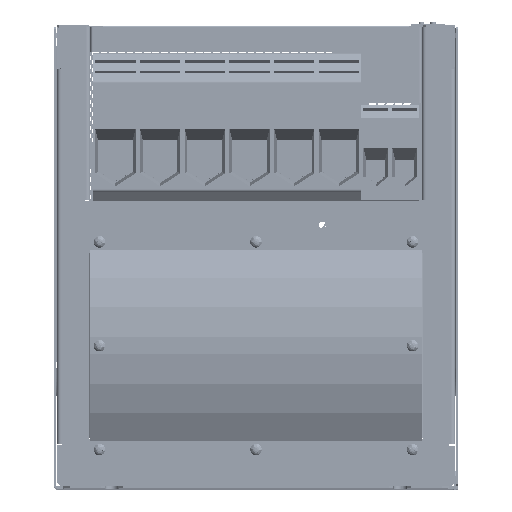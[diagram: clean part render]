
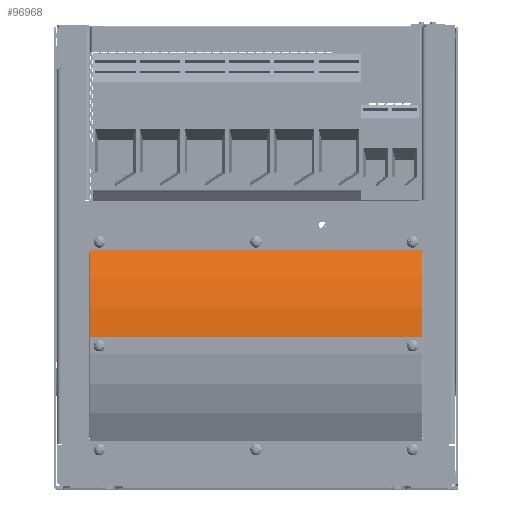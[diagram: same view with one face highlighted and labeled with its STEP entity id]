
A CAD part, top view. The second image highlights one B-rep face of the part: STEP entity #96968.
In plain terms, the highlighted cylindrical face has radius 129.33 mm (diameter 258.66 mm), a partial arc.
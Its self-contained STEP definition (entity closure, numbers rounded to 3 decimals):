
#10365=CYLINDRICAL_SURFACE('',#320966,129.33);
#96968=ADVANCED_FACE('',(#110373),#10365,.T.);
#110373=FACE_OUTER_BOUND('',#123687,.T.);
#123687=EDGE_LOOP('',(#192414,#192415,#192416,#192417));
#142487=LINE('',#384113,#165760);
#142488=LINE('',#384117,#165761);
#165760=VECTOR('',#336410,1.);
#165761=VECTOR('',#336413,1.);
#192414=ORIENTED_EDGE('',*,*,#283652,.T.);
#192415=ORIENTED_EDGE('',*,*,#283653,.F.);
#192416=ORIENTED_EDGE('',*,*,#283654,.F.);
#192417=ORIENTED_EDGE('',*,*,#283655,.T.);
#259446=VERTEX_POINT('',#384111);
#259447=VERTEX_POINT('',#384112);
#259448=VERTEX_POINT('',#384114);
#259449=VERTEX_POINT('',#384116);
#283652=EDGE_CURVE('',#259446,#259447,#316898,.T.);
#283653=EDGE_CURVE('',#259448,#259447,#142487,.T.);
#283654=EDGE_CURVE('',#259449,#259448,#316899,.T.);
#283655=EDGE_CURVE('',#259449,#259446,#142488,.T.);
#316898=CIRCLE('',#320964,129.33);
#316899=CIRCLE('',#320965,129.33);
#320964=AXIS2_PLACEMENT_3D('',#384110,#336408,#336409);
#320965=AXIS2_PLACEMENT_3D('',#384115,#336411,#336412);
#320966=AXIS2_PLACEMENT_3D('',#384118,#336414,#336415);
#336408=DIRECTION('',(1.,0.,0.));
#336409=DIRECTION('',(0.,0.,-1.));
#336410=DIRECTION('',(-1.,0.,0.));
#336411=DIRECTION('',(1.,0.,0.));
#336412=DIRECTION('',(0.,0.,-1.));
#336413=DIRECTION('',(-1.,0.,0.));
#336414=DIRECTION('',(-1.,0.,0.));
#336415=DIRECTION('',(0.,0.,1.));
#384110=CARTESIAN_POINT('',(-126.608,-15.146,169.799));
#384111=CARTESIAN_POINT('',(-126.608,50.888,281.));
#384112=CARTESIAN_POINT('',(-126.608,-9.374,299.));
#384113=CARTESIAN_POINT('',(103.392,-9.374,299.));
#384114=CARTESIAN_POINT('',(103.392,-9.374,299.));
#384115=CARTESIAN_POINT('',(103.392,-15.146,169.799));
#384116=CARTESIAN_POINT('',(103.392,50.888,281.));
#384117=CARTESIAN_POINT('',(103.392,50.888,281.));
#384118=CARTESIAN_POINT('',(103.392,-15.146,169.799));
